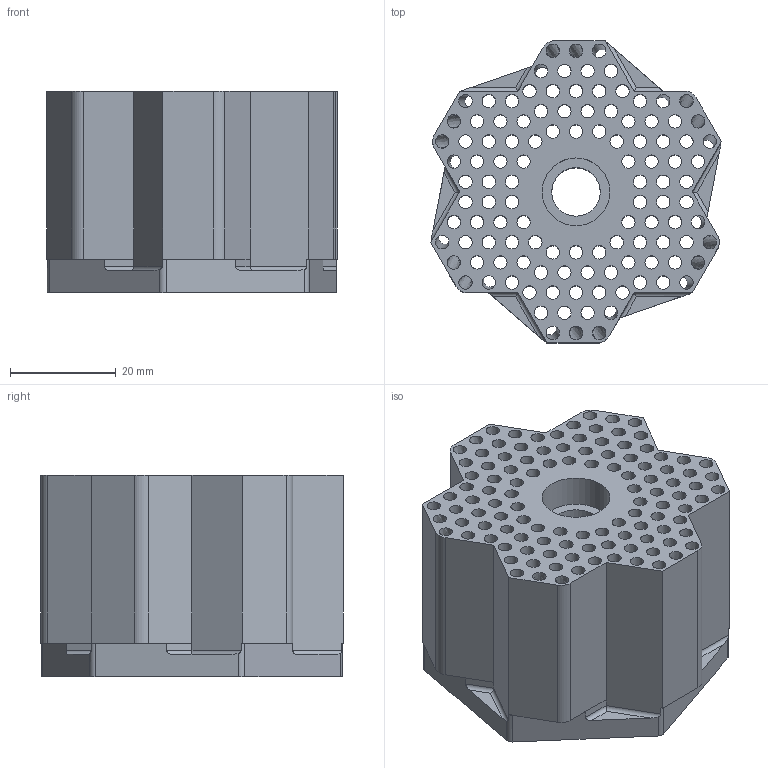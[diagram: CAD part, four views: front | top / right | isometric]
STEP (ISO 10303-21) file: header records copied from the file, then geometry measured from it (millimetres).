
FILE_DESCRIPTION(('FreeCAD Model'),'2;1');
FILE_NAME('Open CASCADE Shape Model','2026-10-09T19:41:06',(''),(''), 'Open CASCADE STEP processor 7.8','FreeCAD','Unknown');
FILE_SCHEMA(('AUTOMOTIVE_DESIGN { 1 0 10303 214 1 1 1 1 }'));
Length unit declared in the file: millimetre
Products named in the file (1): Body
Bounding box: 54.99 x 57.15 x 38.1 mm (x, y, z)
Volume: 58881.2 mm3; surface area: 45240.1 mm2
Topology: 1 solids, 1 shells, 209 faces, 642 edges, 424 vertices
Faces by surface type: cylinder 128, plane 57, bspline 24
Full cylindrical faces by diameter (mm): 2.54 x90, 3.217 x12, 9.169 x1, 12.827 x1
Entity records: 12294 total; most frequent: CARTESIAN_POINT 6036, ORIENTED_EDGE 1284, DIRECTION 1230, EDGE_CURVE 642, AXIS2_PLACEMENT_3D 494, FACE_BOUND 428, EDGE_LOOP 428, VERTEX_POINT 424
